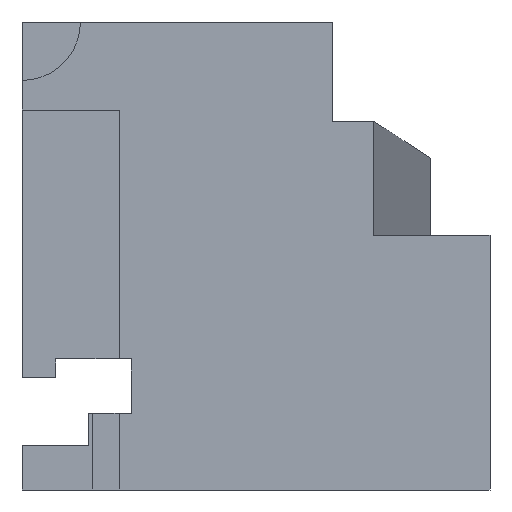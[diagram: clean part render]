
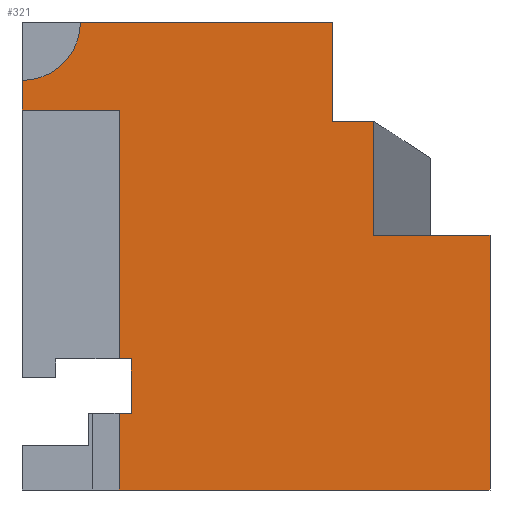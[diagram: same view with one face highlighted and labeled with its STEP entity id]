
A CAD part, front view. The second image highlights one B-rep face of the part: STEP entity #321.
In plain terms, the highlighted planar face has unit normal (0, -1, 0).
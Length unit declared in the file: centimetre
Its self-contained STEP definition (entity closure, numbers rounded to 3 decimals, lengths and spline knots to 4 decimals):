
#6 = DIRECTION ( 'NONE',  ( 1., 0., 0. ) ) ;
#8 = EDGE_CURVE ( 'NONE', #122, #557, #690, .T. ) ;
#27 = VERTEX_POINT ( 'NONE', #342 ) ;
#36 = VECTOR ( 'NONE', #1096, 100. ) ;
#37 = DIRECTION ( 'NONE',  ( 1., 0., 0. ) ) ;
#42 = VERTEX_POINT ( 'NONE', #245 ) ;
#53 = DIRECTION ( 'NONE',  ( 1., 0., 0. ) ) ;
#56 = DIRECTION ( 'NONE',  ( 0., 0., -1. ) ) ;
#63 = CARTESIAN_POINT ( 'NONE',  ( 207.6119, 0., 163.8498 ) ) ;
#64 = EDGE_CURVE ( 'NONE', #236, #1091, #875, .T. ) ;
#66 = VECTOR ( 'NONE', #955, 100. ) ;
#67 = CARTESIAN_POINT ( 'NONE',  ( 207.6119, 0., 811.9431 ) ) ;
#82 = ORIENTED_EDGE ( 'NONE', *, *, #602, .F. ) ;
#88 = VERTEX_POINT ( 'NONE', #958 ) ;
#100 = CARTESIAN_POINT ( 'NONE',  ( 1000., 0., 0. ) ) ;
#115 = LINE ( 'NONE', #573, #916 ) ;
#122 = VERTEX_POINT ( 'NONE', #502 ) ;
#124 = EDGE_CURVE ( 'NONE', #525, #682, #253, .T. ) ;
#141 = CARTESIAN_POINT ( 'NONE',  ( 1000., 0., 1000. ) ) ;
#143 = EDGE_CURVE ( 'NONE', #27, #42, #988, .T. ) ;
#165 = EDGE_CURVE ( 'NONE', #557, #812, #633, .T. ) ;
#177 = FACE_OUTER_BOUND ( 'NONE', #837, .T. ) ;
#182 = CARTESIAN_POINT ( 'NONE',  ( 207.6119, 0., 811.9431 ) ) ;
#184 = AXIS2_PLACEMENT_3D ( 'NONE', #1068, #425, #787 ) ;
#186 = VECTOR ( 'NONE', #56, 100. ) ;
#206 = VECTOR ( 'NONE', #37, 100. ) ;
#209 = ORIENTED_EDGE ( 'NONE', *, *, #348, .F. ) ;
#223 = CARTESIAN_POINT ( 'NONE',  ( 751.25, 0., 788.3322 ) ) ;
#227 = VERTEX_POINT ( 'NONE', #340 ) ;
#236 = VERTEX_POINT ( 'NONE', #438 ) ;
#241 = DIRECTION ( 'NONE',  ( 0., 0., -1. ) ) ;
#245 = CARTESIAN_POINT ( 'NONE',  ( 663.4335, 0., 1000. ) ) ;
#246 = DIRECTION ( 'NONE',  ( 0., 0., -1. ) ) ;
#252 = LINE ( 'NONE', #986, #1086 ) ;
#253 = LINE ( 'NONE', #797, #601 ) ;
#267 = EDGE_CURVE ( 'NONE', #88, #844, #252, .T. ) ;
#274 = DIRECTION ( 'NONE',  ( 0., -1., 0. ) ) ;
#277 = CARTESIAN_POINT ( 'NONE',  ( 0., 0., 1000. ) ) ;
#291 = CARTESIAN_POINT ( 'NONE',  ( 751.25, 0., 544.3469 ) ) ;
#296 = EDGE_CURVE ( 'NONE', #236, #27, #579, .T. ) ;
#304 = VECTOR ( 'NONE', #246, 100. ) ;
#308 = ORIENTED_EDGE ( 'NONE', *, *, #1083, .F. ) ;
#311 = VERTEX_POINT ( 'NONE', #1062 ) ;
#314 = VERTEX_POINT ( 'NONE', #63 ) ;
#321 = ADVANCED_FACE ( 'NONE', ( #177 ), #898, .F. ) ;
#325 = ORIENTED_EDGE ( 'NONE', *, *, #766, .F. ) ;
#335 = CARTESIAN_POINT ( 'NONE',  ( 663.4335, 0., 788.3322 ) ) ;
#340 = CARTESIAN_POINT ( 'NONE',  ( 207.6119, 0., 811.9431 ) ) ;
#342 = CARTESIAN_POINT ( 'NONE',  ( 124.8633, 0., 1000. ) ) ;
#348 = EDGE_CURVE ( 'NONE', #311, #844, #677, .T. ) ;
#401 = LINE ( 'NONE', #141, #186 ) ;
#412 = CARTESIAN_POINT ( 'NONE',  ( 663.4335, 0., 788.3322 ) ) ;
#425 = DIRECTION ( 'NONE',  ( 0., 1., 0. ) ) ;
#436 = CARTESIAN_POINT ( 'NONE',  ( 1000., 0., 544.3469 ) ) ;
#438 = CARTESIAN_POINT ( 'NONE',  ( 0., 0., 875.1367 ) ) ;
#445 = DIRECTION ( 'NONE',  ( 0., 0., 1. ) ) ;
#461 = ORIENTED_EDGE ( 'NONE', *, *, #689, .F. ) ;
#469 = AXIS2_PLACEMENT_3D ( 'NONE', #538, #274, #887 ) ;
#473 = EDGE_CURVE ( 'NONE', #516, #682, #401, .T. ) ;
#502 = CARTESIAN_POINT ( 'NONE',  ( 233.5449, 0., 163.8498 ) ) ;
#516 = VERTEX_POINT ( 'NONE', #436 ) ;
#525 = VERTEX_POINT ( 'NONE', #605 ) ;
#528 = EDGE_CURVE ( 'NONE', #227, #812, #721, .T. ) ;
#530 = CARTESIAN_POINT ( 'NONE',  ( 233.5449, 0., 280.0919 ) ) ;
#538 = CARTESIAN_POINT ( 'NONE',  ( 0., 0., 1000. ) ) ;
#543 = CARTESIAN_POINT ( 'NONE',  ( 72.0644, 0., 163.8498 ) ) ;
#557 = VERTEX_POINT ( 'NONE', #530 ) ;
#573 = CARTESIAN_POINT ( 'NONE',  ( 0., 0., 811.9431 ) ) ;
#579 = CIRCLE ( 'NONE', #469, 124.8633 ) ;
#600 = VECTOR ( 'NONE', #622, 100. ) ;
#601 = VECTOR ( 'NONE', #53, 100. ) ;
#602 = EDGE_CURVE ( 'NONE', #42, #311, #628, .T. ) ;
#605 = CARTESIAN_POINT ( 'NONE',  ( 207.6119, 0., 0. ) ) ;
#612 = CARTESIAN_POINT ( 'NONE',  ( 0., 0., 1000. ) ) ;
#622 = DIRECTION ( 'NONE',  ( 0., 0., -1. ) ) ;
#628 = LINE ( 'NONE', #335, #304 ) ;
#633 = LINE ( 'NONE', #1156, #937 ) ;
#640 = ORIENTED_EDGE ( 'NONE', *, *, #751, .T. ) ;
#650 = ORIENTED_EDGE ( 'NONE', *, *, #143, .F. ) ;
#672 = CARTESIAN_POINT ( 'NONE',  ( 207.6119, 0., 280.0919 ) ) ;
#677 = LINE ( 'NONE', #412, #66 ) ;
#682 = VERTEX_POINT ( 'NONE', #100 ) ;
#689 = EDGE_CURVE ( 'NONE', #88, #516, #998, .T. ) ;
#690 = LINE ( 'NONE', #1053, #719 ) ;
#719 = VECTOR ( 'NONE', #1132, 100. ) ;
#721 = LINE ( 'NONE', #67, #600 ) ;
#727 = LINE ( 'NONE', #543, #206 ) ;
#745 = LINE ( 'NONE', #182, #36 ) ;
#748 = ORIENTED_EDGE ( 'NONE', *, *, #473, .F. ) ;
#751 = EDGE_CURVE ( 'NONE', #314, #525, #745, .T. ) ;
#754 = ORIENTED_EDGE ( 'NONE', *, *, #8, .F. ) ;
#766 = EDGE_CURVE ( 'NONE', #314, #122, #727, .T. ) ;
#771 = DIRECTION ( 'NONE',  ( -1., 0., 0. ) ) ;
#772 = ORIENTED_EDGE ( 'NONE', *, *, #296, .F. ) ;
#787 = DIRECTION ( 'NONE',  ( 0., 0., 1. ) ) ;
#797 = CARTESIAN_POINT ( 'NONE',  ( 0., 0., 0. ) ) ;
#812 = VERTEX_POINT ( 'NONE', #672 ) ;
#828 = ORIENTED_EDGE ( 'NONE', *, *, #528, .T. ) ;
#837 = EDGE_LOOP ( 'NONE', ( #1024, #209, #82, #650, #772, #1100, #308, #828, #979, #754, #325, #640, #897, #748, #461 ) ) ;
#844 = VERTEX_POINT ( 'NONE', #223 ) ;
#875 = LINE ( 'NONE', #612, #1014 ) ;
#887 = DIRECTION ( 'NONE',  ( 0., 0., -1. ) ) ;
#897 = ORIENTED_EDGE ( 'NONE', *, *, #124, .T. ) ;
#898 = PLANE ( 'NONE',  #184 ) ;
#900 = DIRECTION ( 'NONE',  ( 1., 0., 0. ) ) ;
#916 = VECTOR ( 'NONE', #771, 100. ) ;
#937 = VECTOR ( 'NONE', #983, 100. ) ;
#955 = DIRECTION ( 'NONE',  ( 1., 0., 0. ) ) ;
#958 = CARTESIAN_POINT ( 'NONE',  ( 751.25, 0., 544.3469 ) ) ;
#975 = VECTOR ( 'NONE', #6, 100. ) ;
#979 = ORIENTED_EDGE ( 'NONE', *, *, #165, .F. ) ;
#983 = DIRECTION ( 'NONE',  ( -1., 0., 0. ) ) ;
#986 = CARTESIAN_POINT ( 'NONE',  ( 751.25, 0., 544.3469 ) ) ;
#988 = LINE ( 'NONE', #277, #1143 ) ;
#998 = LINE ( 'NONE', #291, #975 ) ;
#1014 = VECTOR ( 'NONE', #241, 100. ) ;
#1024 = ORIENTED_EDGE ( 'NONE', *, *, #267, .T. ) ;
#1053 = CARTESIAN_POINT ( 'NONE',  ( 233.5449, 0., 163.8498 ) ) ;
#1062 = CARTESIAN_POINT ( 'NONE',  ( 663.4335, 0., 788.3322 ) ) ;
#1068 = CARTESIAN_POINT ( 'NONE',  ( 0., 0., 1000. ) ) ;
#1083 = EDGE_CURVE ( 'NONE', #227, #1091, #115, .T. ) ;
#1086 = VECTOR ( 'NONE', #445, 100. ) ;
#1091 = VERTEX_POINT ( 'NONE', #1104 ) ;
#1096 = DIRECTION ( 'NONE',  ( 0., 0., -1. ) ) ;
#1100 = ORIENTED_EDGE ( 'NONE', *, *, #64, .T. ) ;
#1104 = CARTESIAN_POINT ( 'NONE',  ( 0., 0., 811.9431 ) ) ;
#1132 = DIRECTION ( 'NONE',  ( 0., 0., 1. ) ) ;
#1143 = VECTOR ( 'NONE', #900, 100. ) ;
#1156 = CARTESIAN_POINT ( 'NONE',  ( 72.0644, 0., 280.0919 ) ) ;
